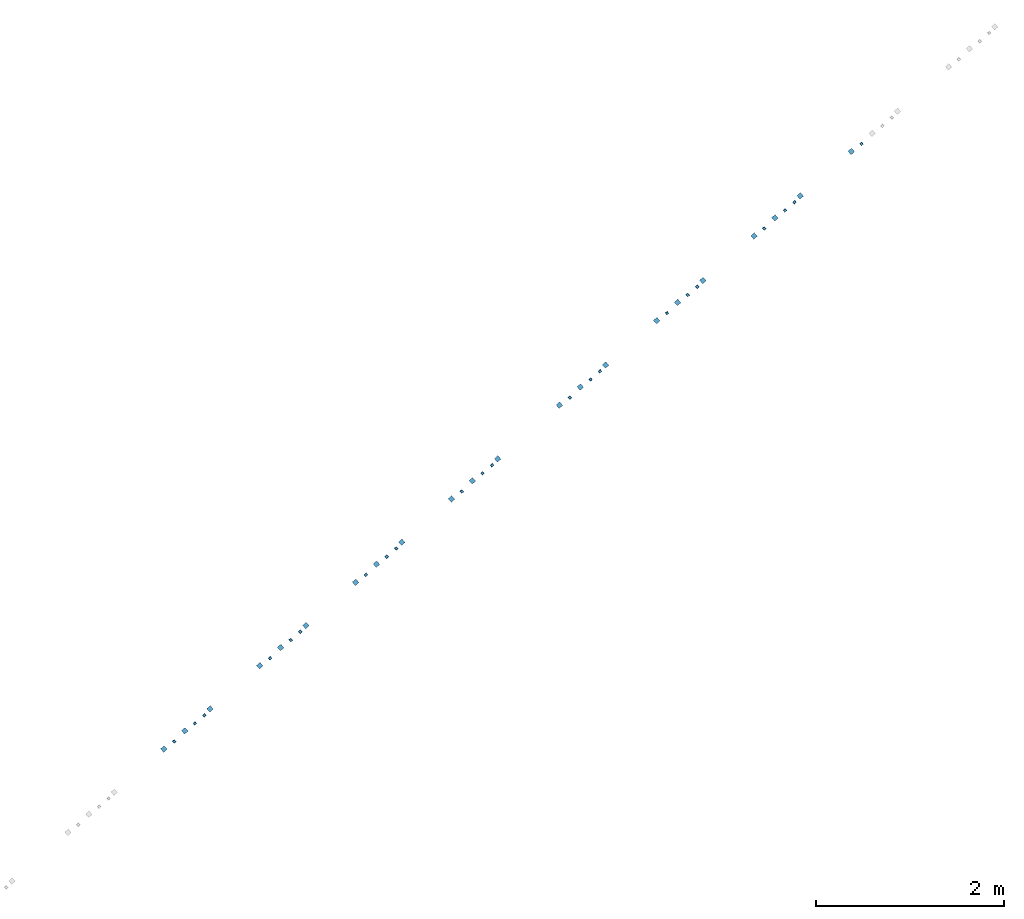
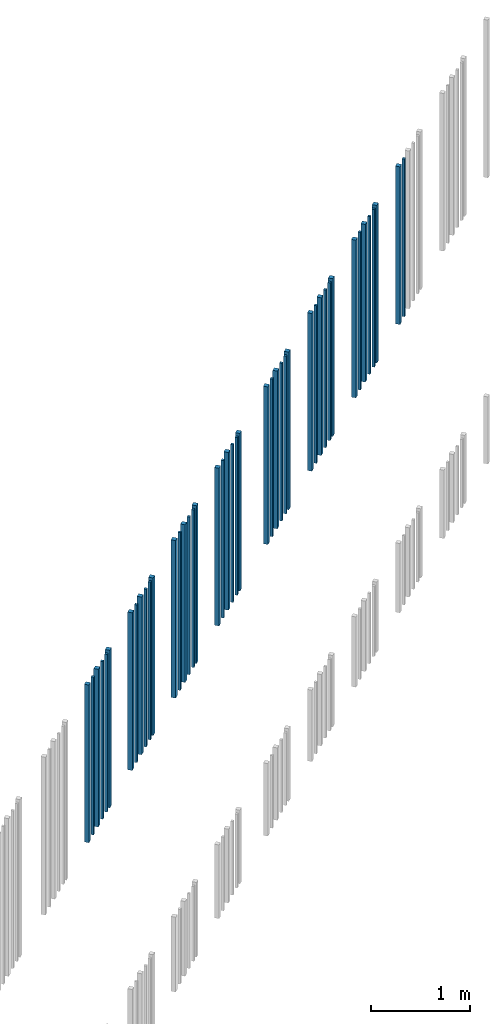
# One storey, part 39 of 124: 44 walls.
"""IFC2X3 building model written with IfcOpenShell, lengths in millimetres."""

from ifc_helpers import new_model, entity, si_unit, converted_unit, derived_unit, money_unit, direction, frame, origin_with_axes, place, context, subcontext, project, spatial, faceted_brep, material, type_object, element, save


model = new_model("IFC2X3")

# Units and contexts
model_context = context("Model", 3, precision=1e-05, world=origin_with_axes(), true_north=direction((0.0, 1.0)))
body_context = subcontext(model_context, "Body", "Model", "MODEL_VIEW")
ifc_project = project(units=[si_unit("LENGTHUNIT", "METRE", prefix="MILLI"), si_unit("AREAUNIT", "SQUARE_METRE"), si_unit("VOLUMEUNIT", "CUBIC_METRE"), converted_unit("PLANEANGLEUNIT", "DEGREE", entity("IfcPlaneAngleMeasure", 0.0174532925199), si_unit("PLANEANGLEUNIT", "RADIAN"), dimensions=[0, 0, 0, 0, 0, 0, 0]), si_unit("SOLIDANGLEUNIT", "STERADIAN"), money_unit("EUR"), converted_unit("TIMEUNIT", "Year", entity("IfcTimeMeasure", 31556926.0), si_unit("TIMEUNIT", "SECOND"), dimensions=[0, 0, 1, 0, 0, 0, 0]), si_unit("MASSUNIT", "GRAM", prefix="KILO"), si_unit("THERMODYNAMICTEMPERATUREUNIT", "DEGREE_CELSIUS"), si_unit("LUMINOUSINTENSITYUNIT", "LUMEN"), si_unit("ENERGYUNIT", "JOULE", prefix="MEGA"), derived_unit("THERMALCONDUCTANCEUNIT", [(si_unit("POWERUNIT", "WATT"), 1), (si_unit("LENGTHUNIT", "METRE"), -1), (si_unit("THERMODYNAMICTEMPERATUREUNIT", "KELVIN"), -1)]), derived_unit("SPECIFICHEATCAPACITYUNIT", [(si_unit("ENERGYUNIT", "JOULE"), 1), (si_unit("MASSUNIT", "GRAM", prefix="KILO"), -1), (si_unit("THERMODYNAMICTEMPERATUREUNIT", "KELVIN"), -1)]), derived_unit("MASSDENSITYUNIT", [(si_unit("MASSUNIT", "GRAM", prefix="KILO"), 1), (si_unit("VOLUMEUNIT", "CUBIC_METRE"), -1)])], contexts=[model_context])

# Site, building, storey
site_placement = place(None, origin_with_axes())
site = spatial("IfcSite", under=ifc_project, at=site_placement, Name="Site", CompositionType="ELEMENT")
building_placement = place(site_placement, origin_with_axes())
building = spatial("IfcBuilding", under=site, at=building_placement, Name="Building", CompositionType="ELEMENT")
storey_placement = place(building_placement, frame((0.0, 0.0, -1615.0), z_axis=(0.0, 0.0, 1.0), x_axis=(1.0, 0.0, 0.0)))
storey = spatial("IfcBuildingStorey", under=building, at=storey_placement, Name="0  korrus", CompositionType="ELEMENT", Elevation=-1615.0)

# Walls
ifc_material = material(Name="Site specified")
wall_type = type_object("IfcWallType", Name="Puitfassaadi ribistik", PredefinedType="NOTDEFINED")
for number, where, z_axis, x_axis, name in (
    (1, (130024.492282, 83064.9825167, 9530.0), (0.0, 0.0, 1.0), (0.754709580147, 0.656059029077, 0.0), "Site specified"),
    (2, (129755.811419, 82831.4218066, 9530.0), (0.0, 0.0, 1.0), (0.754709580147, 0.656059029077, 0.0), "Site specified"),
):
    element("IfcWall", number, at=place(storey_placement, frame(where, z_axis=z_axis, x_axis=x_axis)), inside=storey, type_object=wall_type, material=ifc_material, Name=name, context=body_context, shape_type="Brep", body=[
        faceted_brep([(25.0, 25.0, 1950.0), (25.0, 25.0, 0.0), (-25.0, 25.0, 0.0), (-25.0, 25.0, 1950.0), (25.0, -25.0, 1950.0), (25.0, -25.0, 0.0), (-25.0, -25.0, 0.0), (-25.0, -25.0, 1950.0)], [[[0, 1, 2, 3]], [[4, 5, 1, 0]], [[2, 1, 5, 6]], [[3, 2, 6, 7]], [[4, 0, 3, 7]], [[7, 6, 5, 4]]]),
    ])
wall_1_placement = place(storey_placement, frame((129964.537385, 82998.2893778, 9530.0), z_axis=(0.0, 0.0, 1.0), x_axis=(0.754709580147, 0.656059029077, 0.0)))
element("IfcWall", 3, at=wall_1_placement, inside=storey, type_object=wall_type, material=ifc_material, Name="Site specified", context=body_context, shape_type="Brep", body=[
    faceted_brep([(14.0, 14.0, 1950.0), (14.0, 14.0, 0.0), (-14.0, 14.0, 0.0), (-14.0, 14.0, 1950.0), (14.0, -14.0, 1950.0), (14.0, -14.0, 0.0), (-14.0, -14.0, 0.0), (-14.0, -14.0, 1950.0)], [[[0, 1, 2, 3]], [[4, 5, 1, 0]], [[2, 1, 5, 6]], [[3, 2, 6, 7]], [[4, 0, 3, 7]], [[7, 6, 5, 4]]]),
])
wall_2_placement = place(storey_placement, frame((125820.75992, 79410.7337248, 9530.0), z_axis=(0.0, 0.0, 1.0), x_axis=(0.754709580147, 0.656059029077, 0.0)))
element("IfcWall", 4, at=wall_2_placement, inside=storey, type_object=wall_type, material=ifc_material, Name="Site specified", context=body_context, shape_type="Brep", body=[
    faceted_brep([(25.0, 25.0, 1950.0), (25.0, 25.0, 0.0), (-25.0, 25.0, 0.0), (-25.0, 25.0, 1950.0), (25.0, -25.0, 1950.0), (25.0, -25.0, 0.0), (-25.0, -25.0, 0.0), (-25.0, -25.0, 1950.0)], [[[0, 1, 2, 3]], [[4, 5, 1, 0]], [[2, 1, 5, 6]], [[3, 2, 6, 7]], [[4, 0, 3, 7]], [[7, 6, 5, 4]]]),
])
wall_3_placement = place(storey_placement, frame((125660.42865, 79256.7847356, 9530.0), z_axis=(0.0, 0.0, 1.0), x_axis=(0.754709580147, 0.656059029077, 0.0)))
element("IfcWall", 5, at=wall_3_placement, inside=storey, type_object=wall_type, material=ifc_material, Name="Site specified", context=body_context, shape_type="Brep", body=[
    faceted_brep([(14.0, 14.0, 1950.0), (14.0, 14.0, 0.0), (-14.0, 14.0, 0.0), (-14.0, 14.0, 1950.0), (14.0, -14.0, 1950.0), (14.0, -14.0, 0.0), (-14.0, -14.0, 0.0), (-14.0, -14.0, 1950.0)], [[[0, 1, 2, 3]], [[4, 5, 1, 0]], [[2, 1, 5, 6]], [[3, 2, 6, 7]], [[4, 0, 3, 7]], [[7, 6, 5, 4]]]),
])
for number, where, z_axis, x_axis, name in (
    (6, (125552.079058, 79177.1730147, 9530.0), (0.0, 0.0, 1.0), (0.754709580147, 0.656059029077, 0.0), "Site specified"),
    (7, (125330.194443, 78984.2916616, 9530.0), (0.0, 0.0, 1.0), (0.754709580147, 0.656059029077, 0.0), "Site specified"),
    (8, (131601.831054, 84436.1421931, 9530.0), (0.0, 0.0, 1.0), (0.754709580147, 0.656059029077, 0.0), "Site specified"),
):
    element("IfcWall", number, at=place(storey_placement, frame(where, z_axis=z_axis, x_axis=x_axis)), inside=storey, type_object=wall_type, material=ifc_material, Name=name, context=body_context, shape_type="Brep", body=[
        faceted_brep([(25.0, 25.0, 1950.0), (25.0, 25.0, 0.0), (-25.0, 25.0, 0.0), (-25.0, 25.0, 1950.0), (25.0, -25.0, 1950.0), (25.0, -25.0, 0.0), (-25.0, -25.0, 0.0), (-25.0, -25.0, 1950.0)], [[[0, 1, 2, 3]], [[4, 5, 1, 0]], [[2, 1, 5, 6]], [[3, 2, 6, 7]], [[4, 0, 3, 7]], [[7, 6, 5, 4]]]),
    ])
wall_4_placement = place(storey_placement, frame((128817.378823, 82001.0796538, 9530.0), z_axis=(0.0, 0.0, 1.0), x_axis=(0.754709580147, 0.656059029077, 0.0)))
element("IfcWall", 9, at=wall_4_placement, inside=storey, type_object=wall_type, material=ifc_material, Name="Site specified", context=body_context, shape_type="Brep", body=[
    faceted_brep([(14.0, 14.0, 1950.0), (14.0, 14.0, 0.0), (-14.0, 14.0, 0.0), (-14.0, 14.0, 1950.0), (14.0, -14.0, 1950.0), (14.0, -14.0, 0.0), (-14.0, -14.0, 0.0), (-14.0, -14.0, 1950.0)], [[[0, 1, 2, 3]], [[4, 5, 1, 0]], [[2, 1, 5, 6]], [[3, 2, 6, 7]], [[4, 0, 3, 7]], [[7, 6, 5, 4]]]),
])
wall_5_placement = place(storey_placement, frame((128386.768243, 81641.3307295, 9530.0), z_axis=(0.0, 0.0, 1.0), x_axis=(0.754709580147, 0.656059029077, 0.0)))
element("IfcWall", 10, at=wall_5_placement, inside=storey, type_object=wall_type, material=ifc_material, Name="Site specified", context=body_context, shape_type="Brep", body=[
    faceted_brep([(25.0, 25.0, 1950.0), (25.0, 25.0, 0.0), (-25.0, 25.0, 0.0), (-25.0, 25.0, 1950.0), (25.0, -25.0, 1950.0), (25.0, -25.0, 0.0), (-25.0, -25.0, 0.0), (-25.0, -25.0, 1950.0)], [[[0, 1, 2, 3]], [[4, 5, 1, 0]], [[2, 1, 5, 6]], [[3, 2, 6, 7]], [[4, 0, 3, 7]], [[7, 6, 5, 4]]]),
])
for number, where, z_axis, x_axis, name in (
    (11, (128495.872565, 81721.5985269, 9530.0), (0.0, 0.0, 1.0), (0.754709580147, 0.656059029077, 0.0), "Site specified"),
    (12, (128717.00245, 81913.8238035, 9530.0), (0.0, 0.0, 1.0), (0.754709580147, 0.656059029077, 0.0), "Site specified"),
):
    element("IfcWall", number, at=place(storey_placement, frame(where, z_axis=z_axis, x_axis=x_axis)), inside=storey, type_object=wall_type, material=ifc_material, Name=name, context=body_context, shape_type="Brep", body=[
        faceted_brep([(14.0, 14.0, 1950.0), (14.0, 14.0, 0.0), (-14.0, 14.0, 0.0), (-14.0, 14.0, 1950.0), (14.0, -14.0, 1950.0), (14.0, -14.0, 0.0), (-14.0, -14.0, 0.0), (-14.0, -14.0, 1950.0)], [[[0, 1, 2, 3]], [[4, 5, 1, 0]], [[2, 1, 5, 6]], [[3, 2, 6, 7]], [[4, 0, 3, 7]], [[7, 6, 5, 4]]]),
    ])
for number, where, z_axis, x_axis, name in (
    (13, (128608.652857, 81834.2120826, 9530.0), (0.0, 0.0, 1.0), (0.754709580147, 0.656059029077, 0.0), "Site specified"),
    (14, (128877.33372, 82067.7727927, 9530.0), (0.0, 0.0, 1.0), (0.754709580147, 0.656059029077, 0.0), "Site specified"),
    (15, (126349.052376, 79869.9713508, 9530.0), (0.0, 0.0, 1.0), (0.754709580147, 0.656059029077, 0.0), "Site specified"),
    (16, (126839.617853, 80296.4134141, 9530.0), (0.0, 0.0, 1.0), (0.754709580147, 0.656059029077, 0.0), "Site specified"),
):
    element("IfcWall", number, at=place(storey_placement, frame(where, z_axis=z_axis, x_axis=x_axis)), inside=storey, type_object=wall_type, material=ifc_material, Name=name, context=body_context, shape_type="Brep", body=[
        faceted_brep([(25.0, 25.0, 1950.0), (25.0, 25.0, 0.0), (-25.0, 25.0, 0.0), (-25.0, 25.0, 1950.0), (25.0, -25.0, 1950.0), (25.0, -25.0, 0.0), (-25.0, -25.0, 0.0), (-25.0, -25.0, 1950.0)], [[[0, 1, 2, 3]], [[4, 5, 1, 0]], [[2, 1, 5, 6]], [[3, 2, 6, 7]], [[4, 0, 3, 7]], [[7, 6, 5, 4]]]),
    ])
for number, where, z_axis, x_axis, name in (
    (17, (126458.156698, 79950.2391483, 9530.0), (0.0, 0.0, 1.0), (0.754709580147, 0.656059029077, 0.0), "Site specified"),
    (18, (126779.662957, 80229.7202751, 9530.0), (0.0, 0.0, 1.0), (0.754709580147, 0.656059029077, 0.0), "Site specified"),
    (19, (126679.286584, 80142.4644248, 9530.0), (0.0, 0.0, 1.0), (0.754709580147, 0.656059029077, 0.0), "Site specified"),
):
    element("IfcWall", number, at=place(storey_placement, frame(where, z_axis=z_axis, x_axis=x_axis)), inside=storey, type_object=wall_type, material=ifc_material, Name=name, context=body_context, shape_type="Brep", body=[
        faceted_brep([(14.0, 14.0, 1950.0), (14.0, 14.0, 0.0), (-14.0, 14.0, 0.0), (-14.0, 14.0, 1950.0), (14.0, -14.0, 1950.0), (14.0, -14.0, 0.0), (-14.0, -14.0, 0.0), (-14.0, -14.0, 1950.0)], [[[0, 1, 2, 3]], [[4, 5, 1, 0]], [[2, 1, 5, 6]], [[3, 2, 6, 7]], [[4, 0, 3, 7]], [[7, 6, 5, 4]]]),
    ])
wall_6_placement = place(storey_placement, frame((126570.936991, 80062.8527039, 9530.0), z_axis=(0.0, 0.0, 1.0), x_axis=(0.754709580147, 0.656059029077, 0.0)))
element("IfcWall", 20, at=wall_6_placement, inside=storey, type_object=wall_type, material=ifc_material, Name="Site specified", context=body_context, shape_type="Brep", body=[
    faceted_brep([(25.0, 25.0, 1950.0), (25.0, 25.0, 0.0), (-25.0, 25.0, 0.0), (-25.0, 25.0, 1950.0), (25.0, -25.0, 1950.0), (25.0, -25.0, 0.0), (-25.0, -25.0, 0.0), (-25.0, -25.0, 1950.0)], [[[0, 1, 2, 3]], [[4, 5, 1, 0]], [[2, 1, 5, 6]], [[3, 2, 6, 7]], [[4, 0, 3, 7]], [[7, 6, 5, 4]]]),
])
wall_7_placement = place(storey_placement, frame((129864.161012, 82911.0335275, 9530.0), z_axis=(0.0, 0.0, 1.0), x_axis=(0.754709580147, 0.656059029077, 0.0)))
element("IfcWall", 21, at=wall_7_placement, inside=storey, type_object=wall_type, material=ifc_material, Name="Site specified", context=body_context, shape_type="Brep", body=[
    faceted_brep([(14.0, 14.0, 1950.0), (14.0, 14.0, 0.0), (-14.0, 14.0, 0.0), (-14.0, 14.0, 1950.0), (14.0, -14.0, 1950.0), (14.0, -14.0, 0.0), (-14.0, -14.0, 0.0), (-14.0, -14.0, 1950.0)], [[[0, 1, 2, 3]], [[4, 5, 1, 0]], [[2, 1, 5, 6]], [[3, 2, 6, 7]], [[4, 0, 3, 7]], [[7, 6, 5, 4]]]),
])
wall_8_placement = place(storey_placement, frame((130789.763544, 83730.2226764, 9530.0), z_axis=(0.0, 0.0, 1.0), x_axis=(0.754709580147, 0.656059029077, 0.0)))
element("IfcWall", 22, at=wall_8_placement, inside=storey, type_object=wall_type, material=ifc_material, Name="Site specified", context=body_context, shape_type="Brep", body=[
    faceted_brep([(25.0, 25.0, 1950.0), (25.0, 25.0, 0.0), (-25.0, 25.0, 0.0), (-25.0, 25.0, 1950.0), (25.0, -25.0, 1950.0), (25.0, -25.0, 0.0), (-25.0, -25.0, 0.0), (-25.0, -25.0, 1950.0)], [[[0, 1, 2, 3]], [[4, 5, 1, 0]], [[2, 1, 5, 6]], [[3, 2, 6, 7]], [[4, 0, 3, 7]], [[7, 6, 5, 4]]]),
])
wall_9_placement = place(storey_placement, frame((127698.144517, 81028.1441141, 9530.0), z_axis=(0.0, 0.0, 1.0), x_axis=(0.754709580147, 0.656059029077, 0.0)))
element("IfcWall", 23, at=wall_9_placement, inside=storey, type_object=wall_type, material=ifc_material, Name="Site specified", context=body_context, shape_type="Brep", body=[
    faceted_brep([(14.0, 14.0, 1950.0), (14.0, 14.0, 0.0), (-14.0, 14.0, 0.0), (-14.0, 14.0, 1950.0), (14.0, -14.0, 1950.0), (14.0, -14.0, 0.0), (-14.0, -14.0, 0.0), (-14.0, -14.0, 1950.0)], [[[0, 1, 2, 3]], [[4, 5, 1, 0]], [[2, 1, 5, 6]], [[3, 2, 6, 7]], [[4, 0, 3, 7]], [[7, 6, 5, 4]]]),
])
wall_10_placement = place(storey_placement, frame((127858.475786, 81182.0931033, 9530.0), z_axis=(0.0, 0.0, 1.0), x_axis=(0.754709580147, 0.656059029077, 0.0)))
element("IfcWall", 24, at=wall_10_placement, inside=storey, type_object=wall_type, material=ifc_material, Name="Site specified", context=body_context, shape_type="Brep", body=[
    faceted_brep([(25.0, 25.0, 1950.0), (25.0, 25.0, 0.0), (-25.0, 25.0, 0.0), (-25.0, 25.0, 1950.0), (25.0, -25.0, 1950.0), (25.0, -25.0, 0.0), (-25.0, -25.0, 0.0), (-25.0, -25.0, 1950.0)], [[[0, 1, 2, 3]], [[4, 5, 1, 0]], [[2, 1, 5, 6]], [[3, 2, 6, 7]], [[4, 0, 3, 7]], [[7, 6, 5, 4]]]),
])
wall_11_placement = place(storey_placement, frame((132744.887501, 85415.2108604, 9530.0), z_axis=(0.0, 0.0, 1.0), x_axis=(0.754709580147, 0.656059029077, 0.0)))
element("IfcWall", 25, at=wall_11_placement, inside=storey, type_object=wall_type, material=ifc_material, Name="Site specified", context=body_context, shape_type="Brep", body=[
    faceted_brep([(14.0, 14.0, 1950.0), (14.0, 14.0, 0.0), (-14.0, 14.0, 0.0), (-14.0, 14.0, 1950.0), (14.0, -14.0, 1950.0), (14.0, -14.0, 0.0), (-14.0, -14.0, 0.0), (-14.0, -14.0, 1950.0)], [[[0, 1, 2, 3]], [[4, 5, 1, 0]], [[2, 1, 5, 6]], [[3, 2, 6, 7]], [[4, 0, 3, 7]], [[7, 6, 5, 4]]]),
])
for number, where, z_axis, x_axis, name in (
    (26, (132635.783179, 85334.943063, 9530.0), (0.0, 0.0, 1.0), (0.754709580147, 0.656059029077, 0.0), "Site specified"),
    (27, (129533.926805, 82638.5404535, 9530.0), (0.0, 0.0, 1.0), (0.754709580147, 0.656059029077, 0.0), "Site specified"),
    (28, (127589.794924, 80948.5323932, 9530.0), (0.0, 0.0, 1.0), (0.754709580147, 0.656059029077, 0.0), "Site specified"),
):
    element("IfcWall", number, at=place(storey_placement, frame(where, z_axis=z_axis, x_axis=x_axis)), inside=storey, type_object=wall_type, material=ifc_material, Name=name, context=body_context, shape_type="Brep", body=[
        faceted_brep([(25.0, 25.0, 1950.0), (25.0, 25.0, 0.0), (-25.0, 25.0, 0.0), (-25.0, 25.0, 1950.0), (25.0, -25.0, 1950.0), (25.0, -25.0, 0.0), (-25.0, -25.0, 0.0), (-25.0, -25.0, 1950.0)], [[[0, 1, 2, 3]], [[4, 5, 1, 0]], [[2, 1, 5, 6]], [[3, 2, 6, 7]], [[4, 0, 3, 7]], [[7, 6, 5, 4]]]),
    ])
wall_12_placement = place(storey_placement, frame((130676.983252, 83617.6091207, 9530.0), z_axis=(0.0, 0.0, 1.0), x_axis=(0.754709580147, 0.656059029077, 0.0)))
element("IfcWall", 29, at=wall_12_placement, inside=storey, type_object=wall_type, material=ifc_material, Name="Site specified", context=body_context, shape_type="Brep", body=[
    faceted_brep([(14.0, 14.0, 1950.0), (14.0, 14.0, 0.0), (-14.0, 14.0, 0.0), (-14.0, 14.0, 1950.0), (14.0, -14.0, 1950.0), (14.0, -14.0, 0.0), (-14.0, -14.0, 0.0), (-14.0, -14.0, 1950.0)], [[[0, 1, 2, 3]], [[4, 5, 1, 0]], [[2, 1, 5, 6]], [[3, 2, 6, 7]], [[4, 0, 3, 7]], [[7, 6, 5, 4]]]),
])
wall_13_placement = place(storey_placement, frame((131058.444406, 83963.7833866, 9530.0), z_axis=(0.0, 0.0, 1.0), x_axis=(0.754709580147, 0.656059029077, 0.0)))
element("IfcWall", 30, at=wall_13_placement, inside=storey, type_object=wall_type, material=ifc_material, Name="Site specified", context=body_context, shape_type="Brep", body=[
    faceted_brep([(25.0, 25.0, 1950.0), (25.0, 25.0, 0.0), (-25.0, 25.0, 0.0), (-25.0, 25.0, 1950.0), (25.0, -25.0, 1950.0), (25.0, -25.0, 0.0), (-25.0, -25.0, 0.0), (-25.0, -25.0, 1950.0)], [[[0, 1, 2, 3]], [[4, 5, 1, 0]], [[2, 1, 5, 6]], [[3, 2, 6, 7]], [[4, 0, 3, 7]], [[7, 6, 5, 4]]]),
])
wall_14_placement = place(storey_placement, frame((130998.48951, 83897.0902476, 9530.0), z_axis=(0.0, 0.0, 1.0), x_axis=(0.754709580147, 0.656059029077, 0.0)))
element("IfcWall", 31, at=wall_14_placement, inside=storey, type_object=wall_type, material=ifc_material, Name="Site specified", context=body_context, shape_type="Brep", body=[
    faceted_brep([(14.0, 14.0, 1950.0), (14.0, 14.0, 0.0), (-14.0, 14.0, 0.0), (-14.0, 14.0, 1950.0), (14.0, -14.0, 1950.0), (14.0, -14.0, 0.0), (-14.0, -14.0, 0.0), (-14.0, -14.0, 1950.0)], [[[0, 1, 2, 3]], [[4, 5, 1, 0]], [[2, 1, 5, 6]], [[3, 2, 6, 7]], [[4, 0, 3, 7]], [[7, 6, 5, 4]]]),
])
wall_15_placement = place(storey_placement, frame((130567.878929, 83537.3413233, 9530.0), z_axis=(0.0, 0.0, 1.0), x_axis=(0.754709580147, 0.656059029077, 0.0)))
element("IfcWall", 32, at=wall_15_placement, inside=storey, type_object=wall_type, material=ifc_material, Name="Site specified", context=body_context, shape_type="Brep", body=[
    faceted_brep([(25.0, 25.0, 1950.0), (25.0, 25.0, 0.0), (-25.0, 25.0, 0.0), (-25.0, 25.0, 1950.0), (25.0, -25.0, 1950.0), (25.0, -25.0, 0.0), (-25.0, -25.0, 0.0), (-25.0, -25.0, 1950.0)], [[[0, 1, 2, 3]], [[4, 5, 1, 0]], [[2, 1, 5, 6]], [[3, 2, 6, 7]], [[4, 0, 3, 7]], [[7, 6, 5, 4]]]),
])
for number, where, z_axis, x_axis, name in (
    (33, (130898.113137, 83809.8343973, 9530.0), (0.0, 0.0, 1.0), (0.754709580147, 0.656059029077, 0.0), "Site specified"),
    (34, (129643.031127, 82718.8082509, 9530.0), (0.0, 0.0, 1.0), (0.754709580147, 0.656059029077, 0.0), "Site specified"),
    (35, (127477.014632, 80835.9188375, 9530.0), (0.0, 0.0, 1.0), (0.754709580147, 0.656059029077, 0.0), "Site specified"),
    (36, (127798.52089, 81115.3999644, 9530.0), (0.0, 0.0, 1.0), (0.754709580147, 0.656059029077, 0.0), "Site specified"),
):
    element("IfcWall", number, at=place(storey_placement, frame(where, z_axis=z_axis, x_axis=x_axis)), inside=storey, type_object=wall_type, material=ifc_material, Name=name, context=body_context, shape_type="Brep", body=[
        faceted_brep([(14.0, 14.0, 1950.0), (14.0, 14.0, 0.0), (-14.0, 14.0, 0.0), (-14.0, 14.0, 1950.0), (14.0, -14.0, 1950.0), (14.0, -14.0, 0.0), (-14.0, -14.0, 0.0), (-14.0, -14.0, 1950.0)], [[[0, 1, 2, 3]], [[4, 5, 1, 0]], [[2, 1, 5, 6]], [[3, 2, 6, 7]], [[4, 0, 3, 7]], [[7, 6, 5, 4]]]),
    ])
for number, where, z_axis, x_axis, name in (
    (37, (127367.910309, 80755.6510401, 9530.0), (0.0, 0.0, 1.0), (0.754709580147, 0.656059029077, 0.0), "Site specified"),
    (38, (131823.715669, 84629.0235462, 9530.0), (0.0, 0.0, 1.0), (0.754709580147, 0.656059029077, 0.0), "Site specified"),
):
    element("IfcWall", number, at=place(storey_placement, frame(where, z_axis=z_axis, x_axis=x_axis)), inside=storey, type_object=wall_type, material=ifc_material, Name=name, context=body_context, shape_type="Brep", body=[
        faceted_brep([(25.0, 25.0, 1950.0), (25.0, 25.0, 0.0), (-25.0, 25.0, 0.0), (-25.0, 25.0, 1950.0), (25.0, -25.0, 1950.0), (25.0, -25.0, 0.0), (-25.0, -25.0, 0.0), (-25.0, -25.0, 1950.0)], [[[0, 1, 2, 3]], [[4, 5, 1, 0]], [[2, 1, 5, 6]], [[3, 2, 6, 7]], [[4, 0, 3, 7]], [[7, 6, 5, 4]]]),
    ])
wall_16_placement = place(storey_placement, frame((132032.441635, 84795.8911174, 9530.0), z_axis=(0.0, 0.0, 1.0), x_axis=(0.754709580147, 0.656059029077, 0.0)))
element("IfcWall", 39, at=wall_16_placement, inside=storey, type_object=wall_type, material=ifc_material, Name="Site specified", context=body_context, shape_type="Brep", body=[
    faceted_brep([(14.0, 14.0, 1950.0), (14.0, 14.0, 0.0), (-14.0, 14.0, 0.0), (-14.0, 14.0, 1950.0), (14.0, -14.0, 1950.0), (14.0, -14.0, 0.0), (-14.0, -14.0, 0.0), (-14.0, -14.0, 1950.0)], [[[0, 1, 2, 3]], [[4, 5, 1, 0]], [[2, 1, 5, 6]], [[3, 2, 6, 7]], [[4, 0, 3, 7]], [[7, 6, 5, 4]]]),
])
wall_17_placement = place(storey_placement, frame((132092.396531, 84862.5842564, 9530.0), z_axis=(0.0, 0.0, 1.0), x_axis=(0.754709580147, 0.656059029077, 0.0)))
element("IfcWall", 40, at=wall_17_placement, inside=storey, type_object=wall_type, material=ifc_material, Name="Site specified", context=body_context, shape_type="Brep", body=[
    faceted_brep([(25.0, 25.0, 1950.0), (25.0, 25.0, 0.0), (-25.0, 25.0, 0.0), (-25.0, 25.0, 1950.0), (25.0, -25.0, 1950.0), (25.0, -25.0, 0.0), (-25.0, -25.0, 0.0), (-25.0, -25.0, 1950.0)], [[[0, 1, 2, 3]], [[4, 5, 1, 0]], [[2, 1, 5, 6]], [[3, 2, 6, 7]], [[4, 0, 3, 7]], [[7, 6, 5, 4]]]),
])
for number, where, z_axis, x_axis, name in (
    (41, (131932.065262, 84708.6352671, 9530.0), (0.0, 0.0, 1.0), (0.754709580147, 0.656059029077, 0.0), "Site specified"),
    (42, (131710.935376, 84516.4099906, 9530.0), (0.0, 0.0, 1.0), (0.754709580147, 0.656059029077, 0.0), "Site specified"),
    (43, (125439.298765, 79064.559459, 9530.0), (0.0, 0.0, 1.0), (0.754709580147, 0.656059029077, 0.0), "Site specified"),
    (44, (125760.805024, 79344.0405859, 9530.0), (0.0, 0.0, 1.0), (0.754709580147, 0.656059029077, 0.0), "Site specified"),
):
    element("IfcWall", number, at=place(storey_placement, frame(where, z_axis=z_axis, x_axis=x_axis)), inside=storey, type_object=wall_type, material=ifc_material, Name=name, context=body_context, shape_type="Brep", body=[
        faceted_brep([(14.0, 14.0, 1950.0), (14.0, 14.0, 0.0), (-14.0, 14.0, 0.0), (-14.0, 14.0, 1950.0), (14.0, -14.0, 1950.0), (14.0, -14.0, 0.0), (-14.0, -14.0, 0.0), (-14.0, -14.0, 1950.0)], [[[0, 1, 2, 3]], [[4, 5, 1, 0]], [[2, 1, 5, 6]], [[3, 2, 6, 7]], [[4, 0, 3, 7]], [[7, 6, 5, 4]]]),
    ])

save(model, "model.ifc")
